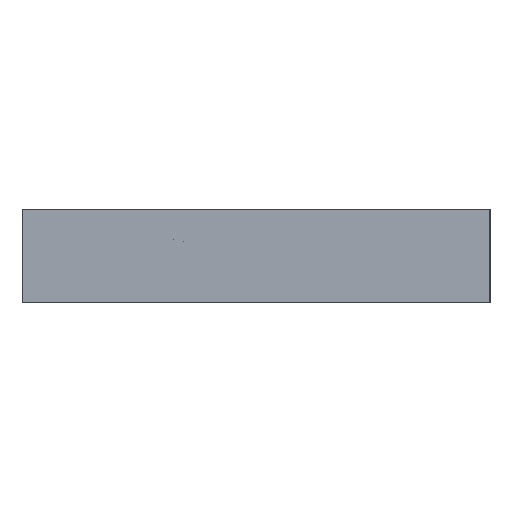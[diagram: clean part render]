
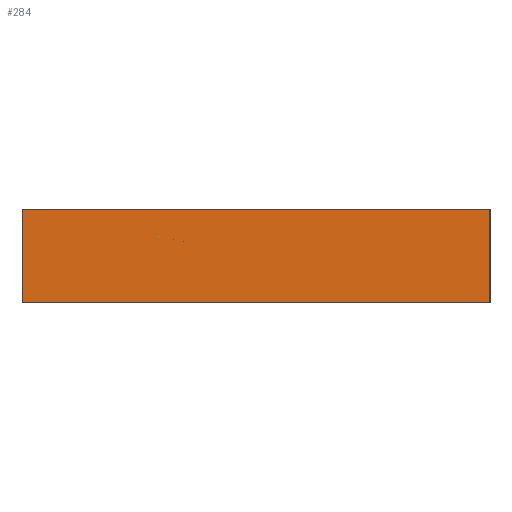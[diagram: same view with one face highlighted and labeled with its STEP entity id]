
A CAD part, left-side view. The second image highlights one B-rep face of the part: STEP entity #284.
In plain terms, the highlighted planar face has unit normal (-1, 0, 0).
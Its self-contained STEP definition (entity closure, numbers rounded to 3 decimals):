
#21 = EDGE_CURVE('',#22,#24,#26,.T.);
#22 = VERTEX_POINT('',#23);
#23 = CARTESIAN_POINT('',(-150.,-30.,0.));
#24 = VERTEX_POINT('',#25);
#25 = CARTESIAN_POINT('',(-150.,-30.,12.));
#26 = SURFACE_CURVE('',#27,(#31,#43),.PCURVE_S1.);
#27 = LINE('',#28,#29);
#28 = CARTESIAN_POINT('',(-150.,-30.,0.));
#29 = VECTOR('',#30,1.);
#30 = DIRECTION('',(0.,0.,1.));
#31 = PCURVE('',#32,#37);
#32 = PLANE('',#33);
#33 = AXIS2_PLACEMENT_3D('',#34,#35,#36);
#34 = CARTESIAN_POINT('',(-150.,-30.,0.));
#35 = DIRECTION('',(0.,1.,0.));
#36 = DIRECTION('',(1.,0.,0.));
#37 = DEFINITIONAL_REPRESENTATION('',(#38),#42);
#38 = LINE('',#39,#40);
#39 = CARTESIAN_POINT('',(0.,0.));
#40 = VECTOR('',#41,1.);
#41 = DIRECTION('',(0.,-1.));
#42 = ( GEOMETRIC_REPRESENTATION_CONTEXT(2) 
PARAMETRIC_REPRESENTATION_CONTEXT() REPRESENTATION_CONTEXT('2D SPACE',''
  ) );
#43 = PCURVE('',#44,#49);
#44 = PLANE('',#45);
#45 = AXIS2_PLACEMENT_3D('',#46,#47,#48);
#46 = CARTESIAN_POINT('',(-150.,30.,0.));
#47 = DIRECTION('',(1.,0.,-0.));
#48 = DIRECTION('',(0.,-1.,0.));
#49 = DEFINITIONAL_REPRESENTATION('',(#50),#54);
#50 = LINE('',#51,#52);
#51 = CARTESIAN_POINT('',(60.,0.));
#52 = VECTOR('',#53,1.);
#53 = DIRECTION('',(0.,-1.));
#54 = ( GEOMETRIC_REPRESENTATION_CONTEXT(2) 
PARAMETRIC_REPRESENTATION_CONTEXT() REPRESENTATION_CONTEXT('2D SPACE',''
  ) );
#72 = PLANE('',#73);
#73 = AXIS2_PLACEMENT_3D('',#74,#75,#76);
#74 = CARTESIAN_POINT('',(0.,0.,12.));
#75 = DIRECTION('',(0.,0.,1.));
#76 = DIRECTION('',(1.,0.,-0.));
#126 = PLANE('',#127);
#127 = AXIS2_PLACEMENT_3D('',#128,#129,#130);
#128 = CARTESIAN_POINT('',(0.,0.,0.));
#129 = DIRECTION('',(0.,0.,1.));
#130 = DIRECTION('',(1.,0.,-0.));
#181 = PLANE('',#182);
#182 = AXIS2_PLACEMENT_3D('',#183,#184,#185);
#183 = CARTESIAN_POINT('',(150.,30.,0.));
#184 = DIRECTION('',(0.,-1.,0.));
#185 = DIRECTION('',(-1.,0.,0.));
#219 = VERTEX_POINT('',#220);
#220 = CARTESIAN_POINT('',(-150.,30.,12.));
#241 = EDGE_CURVE('',#242,#219,#244,.T.);
#242 = VERTEX_POINT('',#243);
#243 = CARTESIAN_POINT('',(-150.,30.,0.));
#244 = SURFACE_CURVE('',#245,(#249,#256),.PCURVE_S1.);
#245 = LINE('',#246,#247);
#246 = CARTESIAN_POINT('',(-150.,30.,0.));
#247 = VECTOR('',#248,1.);
#248 = DIRECTION('',(0.,0.,1.));
#249 = PCURVE('',#181,#250);
#250 = DEFINITIONAL_REPRESENTATION('',(#251),#255);
#251 = LINE('',#252,#253);
#252 = CARTESIAN_POINT('',(300.,0.));
#253 = VECTOR('',#254,1.);
#254 = DIRECTION('',(0.,-1.));
#255 = ( GEOMETRIC_REPRESENTATION_CONTEXT(2) 
PARAMETRIC_REPRESENTATION_CONTEXT() REPRESENTATION_CONTEXT('2D SPACE',''
  ) );
#256 = PCURVE('',#44,#257);
#257 = DEFINITIONAL_REPRESENTATION('',(#258),#262);
#258 = LINE('',#259,#260);
#259 = CARTESIAN_POINT('',(0.,0.));
#260 = VECTOR('',#261,1.);
#261 = DIRECTION('',(0.,-1.));
#262 = ( GEOMETRIC_REPRESENTATION_CONTEXT(2) 
PARAMETRIC_REPRESENTATION_CONTEXT() REPRESENTATION_CONTEXT('2D SPACE',''
  ) );
#284 = ADVANCED_FACE('',(#285),#44,.F.);
#285 = FACE_BOUND('',#286,.F.);
#286 = EDGE_LOOP('',(#287,#288,#309,#310));
#287 = ORIENTED_EDGE('',*,*,#241,.T.);
#288 = ORIENTED_EDGE('',*,*,#289,.T.);
#289 = EDGE_CURVE('',#219,#24,#290,.T.);
#290 = SURFACE_CURVE('',#291,(#295,#302),.PCURVE_S1.);
#291 = LINE('',#292,#293);
#292 = CARTESIAN_POINT('',(-150.,30.,12.));
#293 = VECTOR('',#294,1.);
#294 = DIRECTION('',(0.,-1.,0.));
#295 = PCURVE('',#44,#296);
#296 = DEFINITIONAL_REPRESENTATION('',(#297),#301);
#297 = LINE('',#298,#299);
#298 = CARTESIAN_POINT('',(0.,-12.));
#299 = VECTOR('',#300,1.);
#300 = DIRECTION('',(1.,0.));
#301 = ( GEOMETRIC_REPRESENTATION_CONTEXT(2) 
PARAMETRIC_REPRESENTATION_CONTEXT() REPRESENTATION_CONTEXT('2D SPACE',''
  ) );
#302 = PCURVE('',#72,#303);
#303 = DEFINITIONAL_REPRESENTATION('',(#304),#308);
#304 = LINE('',#305,#306);
#305 = CARTESIAN_POINT('',(-150.,30.));
#306 = VECTOR('',#307,1.);
#307 = DIRECTION('',(0.,-1.));
#308 = ( GEOMETRIC_REPRESENTATION_CONTEXT(2) 
PARAMETRIC_REPRESENTATION_CONTEXT() REPRESENTATION_CONTEXT('2D SPACE',''
  ) );
#309 = ORIENTED_EDGE('',*,*,#21,.F.);
#310 = ORIENTED_EDGE('',*,*,#311,.F.);
#311 = EDGE_CURVE('',#242,#22,#312,.T.);
#312 = SURFACE_CURVE('',#313,(#317,#324),.PCURVE_S1.);
#313 = LINE('',#314,#315);
#314 = CARTESIAN_POINT('',(-150.,30.,0.));
#315 = VECTOR('',#316,1.);
#316 = DIRECTION('',(0.,-1.,0.));
#317 = PCURVE('',#44,#318);
#318 = DEFINITIONAL_REPRESENTATION('',(#319),#323);
#319 = LINE('',#320,#321);
#320 = CARTESIAN_POINT('',(0.,0.));
#321 = VECTOR('',#322,1.);
#322 = DIRECTION('',(1.,0.));
#323 = ( GEOMETRIC_REPRESENTATION_CONTEXT(2) 
PARAMETRIC_REPRESENTATION_CONTEXT() REPRESENTATION_CONTEXT('2D SPACE',''
  ) );
#324 = PCURVE('',#126,#325);
#325 = DEFINITIONAL_REPRESENTATION('',(#326),#330);
#326 = LINE('',#327,#328);
#327 = CARTESIAN_POINT('',(-150.,30.));
#328 = VECTOR('',#329,1.);
#329 = DIRECTION('',(0.,-1.));
#330 = ( GEOMETRIC_REPRESENTATION_CONTEXT(2) 
PARAMETRIC_REPRESENTATION_CONTEXT() REPRESENTATION_CONTEXT('2D SPACE',''
  ) );
